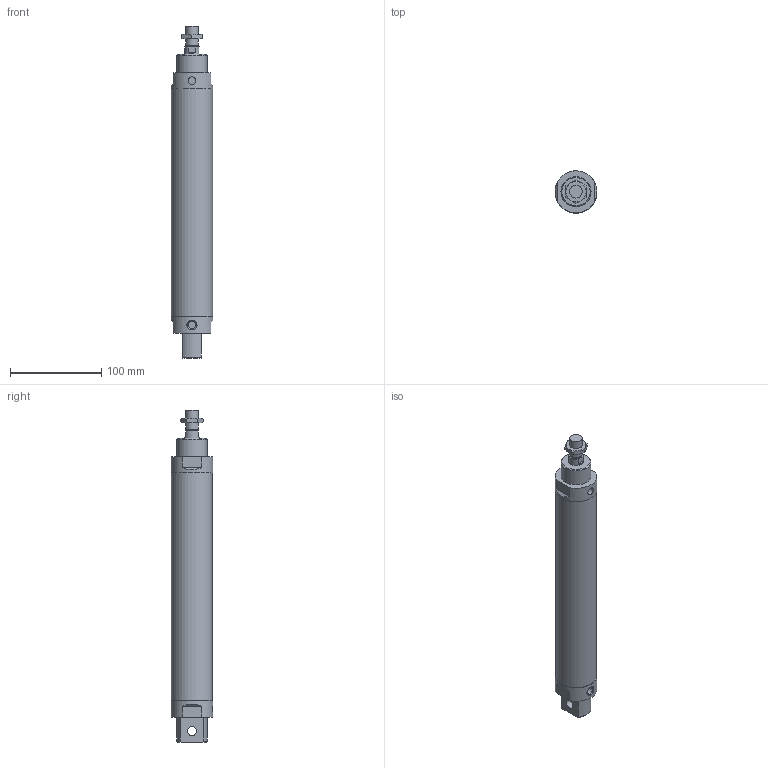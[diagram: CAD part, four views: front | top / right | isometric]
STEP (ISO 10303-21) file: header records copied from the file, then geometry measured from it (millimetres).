
FILE_DESCRIPTION((''),'2;1');
FILE_NAME('I:\3D電子目錄\氣缸\FDA\FDA\FDA\FDA40\FDA40x200.stp','2007-10-23T13:32:08',('66-2f-008'),(''),'Autodesk Inventor 11','Autodesk Inventor 11','');
FILE_SCHEMA(('AUTOMOTIVE_DESIGN { 1 0 10303 214 1 1 1 1 }'));
Length unit declared in the file: millimetre
Products named in the file (1): FDA40
Bounding box: 45.99 x 45.95 x 364 mm (x, y, z)
Volume: 493122.2 mm3; surface area: 51449.5 mm2
Topology: 1 solids, 1 shells, 62 faces, 144 edges, 95 vertices
Faces by surface type: plane 29, cone 15, cylinder 13, bspline 5
Full cylindrical faces by diameter (mm): 8.5 x2, 10 x1, 12 x1, 14 x2, 16 x1, 33 x1, 45 x1, 46 x2
Entity records: 1911 total; most frequent: CARTESIAN_POINT 620, DIRECTION 256, ORIENTED_EDGE 250, EDGE_CURVE 125, AXIS2_PLACEMENT_3D 106, VERTEX_POINT 88, EDGE_LOOP 87, FACE_OUTER_BOUND 62
